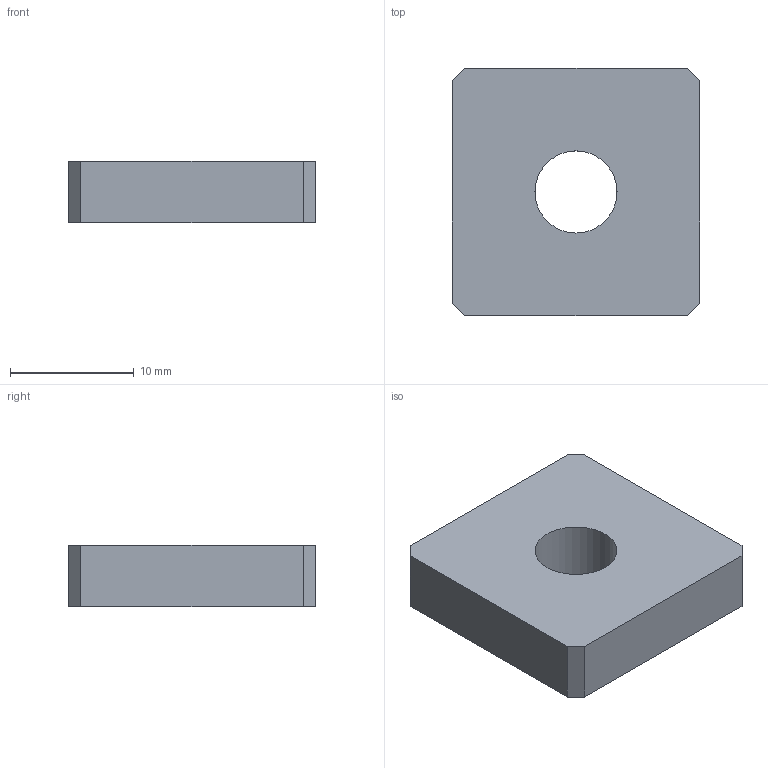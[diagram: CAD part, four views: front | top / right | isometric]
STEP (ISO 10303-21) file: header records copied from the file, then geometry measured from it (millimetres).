
FILE_DESCRIPTION((''),'2;1');
FILE_NAME('C:\Vault Klient\Projekt\Step\100-6030.stp','2009-12-10T09:59:07',('Mathias'),(''),'Autodesk Inventor 2010','Autodesk Inventor 2010','');
FILE_SCHEMA(('CONFIG_CONTROL_DESIGN'));
Length unit declared in the file: millimetre
Products named in the file (1): 100-6030
Bounding box: 20 x 20 x 5 mm (x, y, z)
Volume: 1816.5 mm3; surface area: 1219.3 mm2
Topology: 1 solids, 1 shells, 11 faces, 28 edges, 19 vertices
Faces by surface type: plane 10, bspline 1
Entity records: 361 total; most frequent: CARTESIAN_POINT 73, ORIENTED_EDGE 52, DIRECTION 50, EDGE_CURVE 26, VECTOR 24, LINE 24, VERTEX_POINT 18, EDGE_LOOP 14
